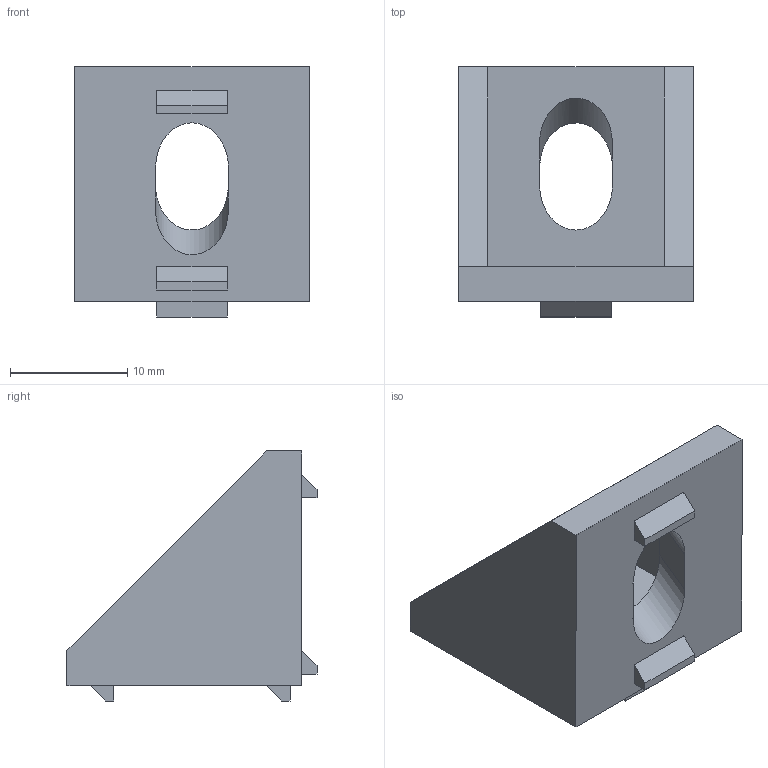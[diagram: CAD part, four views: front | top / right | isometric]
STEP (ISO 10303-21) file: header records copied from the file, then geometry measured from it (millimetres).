
FILE_DESCRIPTION (( 'STEP AP203' ), '1' );
FILE_NAME ('LIMA-GE20X20-6.STEP', '2018-03-15T12:44:01', ( '' ), ( '' ), 'SwSTEP 2.0', 'SolidWorks 2013', '' );
FILE_SCHEMA (( 'CONFIG_CONTROL_DESIGN' ));
Length unit declared in the file: millimetre
Products named in the file (1): LIMA-GE20X20-6
Bounding box: 20 x 21.3 x 21.3 mm (x, y, z)
Volume: 2627.2 mm3; surface area: 2356.7 mm2
Topology: 1 solids, 1 shells, 42 faces, 104 edges, 68 vertices
Faces by surface type: plane 36, cylinder 6
Entity records: 1301 total; most frequent: CARTESIAN_POINT 251, ORIENTED_EDGE 208, DIRECTION 178, EDGE_CURVE 104, LINE 92, VECTOR 92, VERTEX_POINT 68, EDGE_LOOP 50
